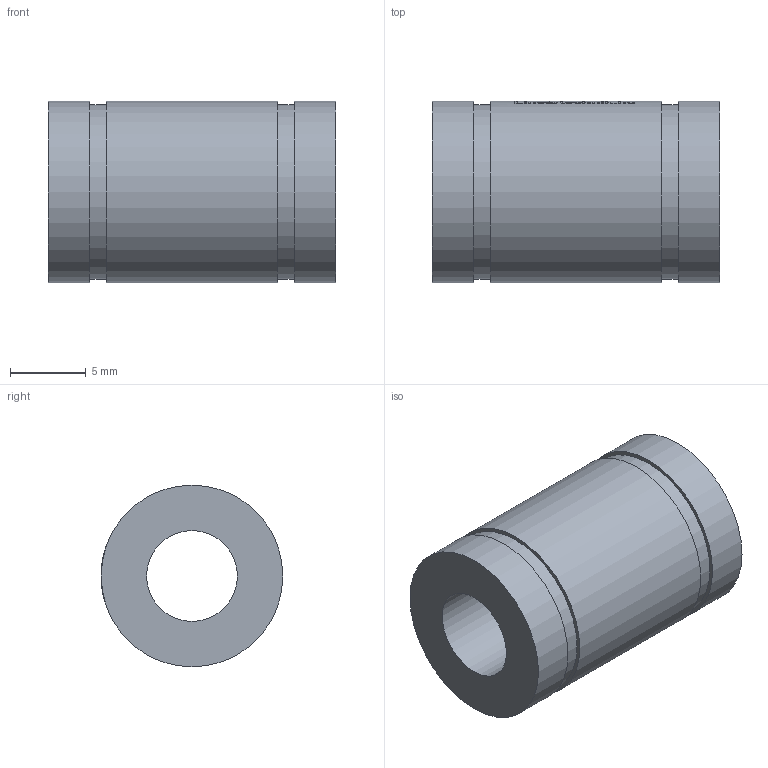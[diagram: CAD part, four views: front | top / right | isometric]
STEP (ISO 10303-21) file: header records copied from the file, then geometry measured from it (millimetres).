
FILE_DESCRIPTION(/* description */ ('Huosing for flange nuts'),/* implementation_level */ '2;1');
FILE_NAME(/* name */ 'LM6UU',/* time_stamp */ '2019-05-07T14:09:01+02:00',/* author */ ('VĂ©gh MĂˇtĂ©'),/* organization */ ('Bearing Kft'),/* preprocessor_version */ 'ST-DEVELOPER v16.7',/* originating_system */ 'DEX',/* authorisation */ $);
FILE_SCHEMA (('AUTOMOTIVE_DESIGN {1 0 10303 214 3 1 1}'));
Length unit declared in the file: millimetre
Products named in the file (1): LM6UU
Bounding box: 19 x 12 x 12 mm (x, y, z)
Volume: 1590.9 mm3; surface area: 1286.2 mm2
Topology: 1 solids, 1 shells, 293 faces, 731 edges, 488 vertices
Faces by surface type: plane 151, bspline 92, cylinder 50
Full cylindrical faces by diameter (mm): 6 x1, 11.5 x2, 12 x3
Entity records: 12839 total; most frequent: CARTESIAN_POINT 6339, ORIENTED_EDGE 1442, DIRECTION 1072, EDGE_CURVE 721, VERTEX_POINT 486, LINE 400, VECTOR 400, EDGE_LOOP 351
